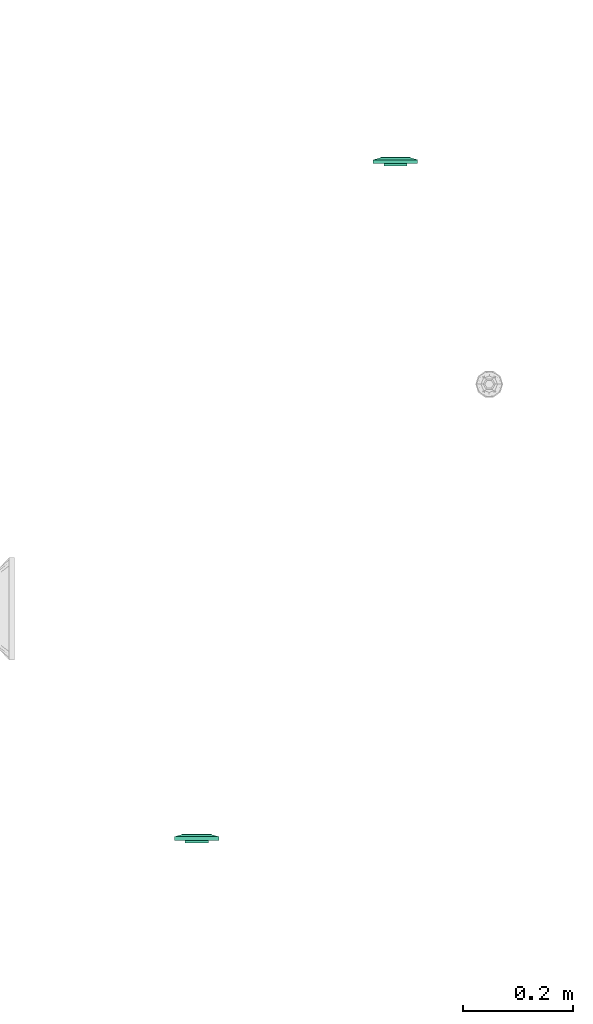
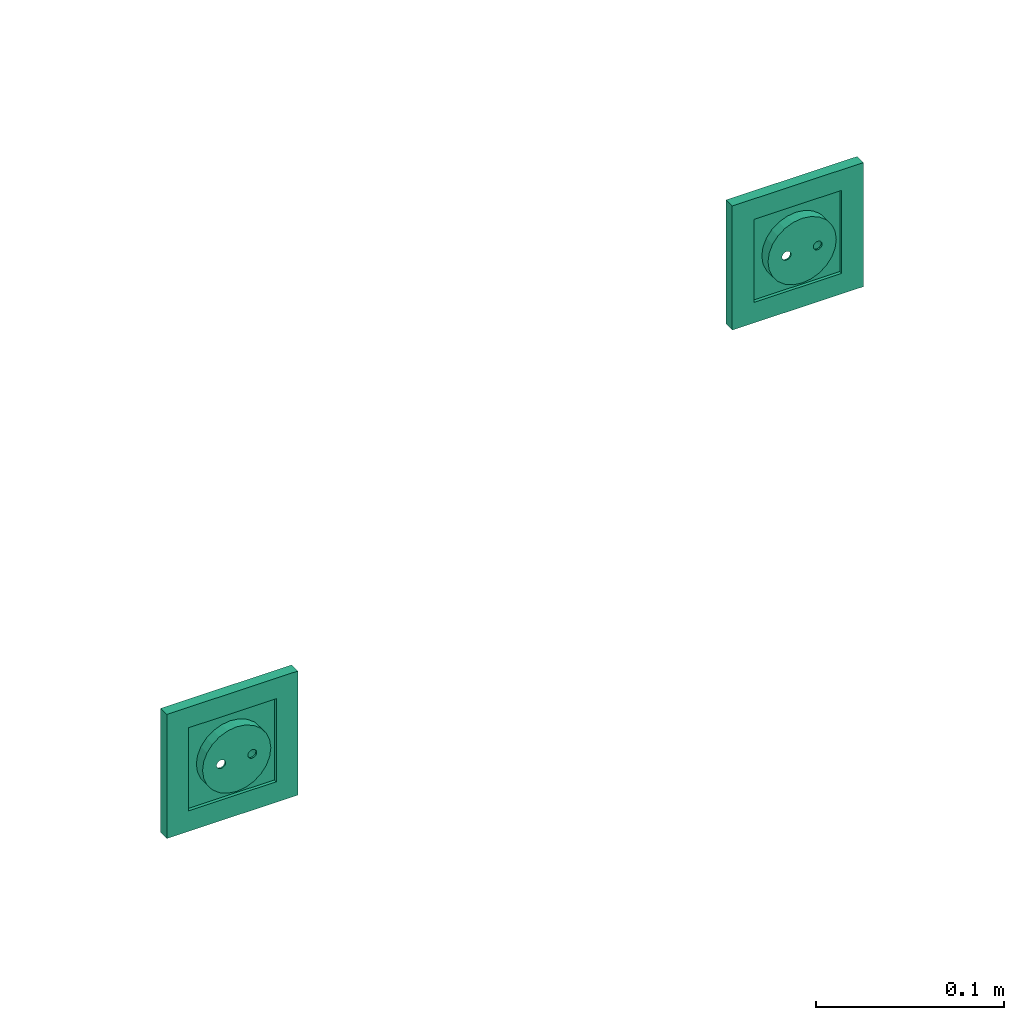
# One storey, part 82 of 166: 2 flow terminals.
"""IFC2X3 building model written with IfcOpenShell, lengths in metres."""

from ifc_helpers import new_model, entity, si_unit, converted_unit, derived_unit, direction, frame, origin, place, context, subcontext, project, spatial, face_set, surface_model, source, transform, mapped, type_object, type_shapes, element, save


model = new_model("IFC2X3")

# Units and contexts
model_context = context("Model", 3, precision=1e-05, world=origin(), true_north=direction((6.12303176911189e-17, 1.0)))
body_context = subcontext(model_context, "Body", "Model", "MODEL_VIEW")
ifc_project = project(units=[si_unit("LENGTHUNIT", "METRE"), si_unit("AREAUNIT", "SQUARE_METRE"), si_unit("VOLUMEUNIT", "CUBIC_METRE"), converted_unit("PLANEANGLEUNIT", "DEGREE", entity("IfcRatioMeasure", 0.0174532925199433), si_unit("PLANEANGLEUNIT", "RADIAN"), dimensions=[0, 0, 0, 0, 0, 0, 0]), si_unit("MASSUNIT", "GRAM", prefix="KILO"), derived_unit("MASSDENSITYUNIT", [(si_unit("MASSUNIT", "GRAM", prefix="KILO"), 1), (si_unit("LENGTHUNIT", "METRE"), -3)]), si_unit("TIMEUNIT", "SECOND"), si_unit("FREQUENCYUNIT", "HERTZ"), si_unit("THERMODYNAMICTEMPERATUREUNIT", "DEGREE_CELSIUS"), derived_unit("THERMALTRANSMITTANCEUNIT", [(si_unit("MASSUNIT", "GRAM", prefix="KILO"), 1), (si_unit("THERMODYNAMICTEMPERATUREUNIT", "KELVIN"), -1), (si_unit("TIMEUNIT", "SECOND"), -3)]), derived_unit("VOLUMETRICFLOWRATEUNIT", [(si_unit("LENGTHUNIT", "METRE"), 3), (si_unit("TIMEUNIT", "SECOND"), -1)]), si_unit("ELECTRICCURRENTUNIT", "AMPERE"), si_unit("ELECTRICVOLTAGEUNIT", "VOLT"), si_unit("POWERUNIT", "WATT"), si_unit("FORCEUNIT", "NEWTON"), si_unit("ILLUMINANCEUNIT", "LUX"), si_unit("LUMINOUSFLUXUNIT", "LUMEN"), si_unit("LUMINOUSINTENSITYUNIT", "CANDELA"), derived_unit("USERDEFINED", [(si_unit("MASSUNIT", "GRAM", prefix="KILO"), -1), (si_unit("LENGTHUNIT", "METRE"), -2), (si_unit("TIMEUNIT", "SECOND"), 3), (si_unit("LUMINOUSFLUXUNIT", "LUMEN"), 1)]), derived_unit("LINEARVELOCITYUNIT", [(si_unit("LENGTHUNIT", "METRE"), 1), (si_unit("TIMEUNIT", "SECOND"), -1)]), si_unit("PRESSUREUNIT", "PASCAL"), derived_unit("USERDEFINED", [(si_unit("LENGTHUNIT", "METRE"), -2), (si_unit("MASSUNIT", "GRAM", prefix="KILO"), 1), (si_unit("TIMEUNIT", "SECOND"), -2)])], contexts=[model_context])

# Site, building, storey
site_placement = place(None, origin())
site = spatial("IfcSite", under=ifc_project, at=site_placement, Name="Default", CompositionType="ELEMENT")
building_placement = place(site_placement, origin())
building = spatial("IfcBuilding", under=site, at=building_placement, CompositionType="ELEMENT")
storey_placement = place(building_placement, frame((0.0, 0.0, 4.27)))
storey = spatial("IfcBuildingStorey", under=building, at=storey_placement, Name="01", CompositionType="ELEMENT", Elevation=4.27)

# Flow terminals
light_fixture_type = type_object("IfcLightFixtureType", Name="Attente", PredefinedType="NOTDEFINED")
shared_shape = source(origin(), body_context, "Body", "SurfaceModel", [
    surface_model("IfcFaceBasedSurfaceModel", [(0.00225000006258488, 0.00949633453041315, 0.0127499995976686), (0.0, 0.00949633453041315, 0.0104999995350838), (0.0, 0.0101656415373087, 0.0115376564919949), (0.0, 0.0101656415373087, 0.0139623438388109), (0.0, 0.00984531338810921, 0.0144589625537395), (0.0, 0.0102778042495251, 0.0121178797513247), (0.0, 0.0102778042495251, 0.0133821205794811), (0.0, 0.010399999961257, 0.0127499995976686), (0.0, 0.00949633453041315, 0.0149999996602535), (-0.00225000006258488, 0.00949633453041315, 0.0127499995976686), (0.0, 0.00984531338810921, 0.0110410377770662), (0.0, 0.00949633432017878, 0.0127499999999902), (-0.0022499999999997, 0.0094963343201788, 0.0127499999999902), (-0.00217333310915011, 0.00949633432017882, 0.0121676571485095), (-0.0019485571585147, 0.00949633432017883, 0.0116249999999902), (-0.00159099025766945, 0.00949633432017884, 0.0111590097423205), (-0.00112499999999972, 0.00949633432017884, 0.0108014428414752), (-0.000582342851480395, 0.00949633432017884, 0.0105766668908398), (0.0, 0.00949633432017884, 0.0104999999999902), (0.000582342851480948, 0.00949633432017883, 0.0105766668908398), (0.00112500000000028, 0.00949633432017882, 0.0108014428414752), (0.00159099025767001, 0.00949633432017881, 0.0111590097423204), (0.00194855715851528, 0.00949633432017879, 0.0116249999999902), (0.0021733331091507, 0.00949633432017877, 0.0121676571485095), (0.0022500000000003, 0.00949633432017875, 0.0127499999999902), (0.00217333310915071, 0.00949633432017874, 0.0133323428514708), (0.0019485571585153, 0.00949633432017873, 0.0138749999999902), (0.00159099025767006, 0.00949633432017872, 0.0143409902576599), (0.00112500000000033, 0.00949633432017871, 0.0146985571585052), (0.000582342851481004, 0.00949633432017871, 0.0149233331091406), (0.0, 0.00949633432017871, 0.0149999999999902), (-0.000582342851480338, 0.00949633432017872, 0.0149233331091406), (-0.00112499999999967, 0.00949633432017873, 0.0146985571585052), (-0.00159099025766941, 0.00949633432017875, 0.0143409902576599), (-0.00194855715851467, 0.00949633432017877, 0.0138749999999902), (-0.00217333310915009, 0.00949633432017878, 0.0133323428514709), (-0.00224999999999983, -0.00360000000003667, 0.0127499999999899), (-0.00217333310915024, -0.00360000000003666, 0.0121676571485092), (-0.00194855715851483, -0.00360000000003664, 0.0116249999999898), (-0.00159099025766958, -0.00360000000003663, 0.0111590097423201), (-0.00112499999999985, -0.00360000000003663, 0.0108014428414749), (-0.000582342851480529, -0.00360000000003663, 0.0105766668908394), (0.0, -0.00360000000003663, 0.0104999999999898), (0.000582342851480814, -0.00360000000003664, 0.0105766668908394), (0.00112500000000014, -0.00360000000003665, 0.0108014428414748), (0.00159099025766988, -0.00360000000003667, 0.0111590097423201), (0.00194855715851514, -0.00360000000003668, 0.0116249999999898), (0.00217333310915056, -0.0036000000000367, 0.0121676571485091), (0.00225000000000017, -0.00360000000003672, 0.0127499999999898), (0.00217333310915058, -0.00360000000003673, 0.0133323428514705), (0.00194855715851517, -0.00360000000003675, 0.0138749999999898), (0.00159099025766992, -0.00360000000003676, 0.0143409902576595), (0.00112500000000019, -0.00360000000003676, 0.0146985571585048), (0.00058234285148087, -0.00360000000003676, 0.0149233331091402), (0.0, -0.00360000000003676, 0.0149999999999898), (-0.000582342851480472, -0.00360000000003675, 0.0149233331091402), (-0.0011249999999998, -0.00360000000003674, 0.0146985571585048), (-0.00159099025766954, -0.00360000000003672, 0.0143409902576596), (-0.0019485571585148, -0.00360000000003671, 0.0138749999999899), (-0.00217333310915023, -0.00360000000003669, 0.0133323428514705), (-0.0270000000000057, 0.0113999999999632, 0.0269999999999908), (0.0269999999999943, 0.0113999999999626, 0.0269999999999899), (0.0269999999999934, 0.0113999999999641, -0.0270000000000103), (-0.0270000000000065, 0.0113999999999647, -0.0270000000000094), (0.0199999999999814, 0.0113999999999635, 0.0), (0.0193185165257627, 0.0113999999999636, -0.00517638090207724), (0.0173205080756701, 0.0113999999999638, -0.0100000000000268), (0.0141421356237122, 0.0113999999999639, -0.0141421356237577), (0.00999999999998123, 0.011399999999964, -0.0173205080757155), (0.00517638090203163, 0.0113999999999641, -0.019318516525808), (0.0, 0.0113999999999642, -0.0200000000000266), (-0.00517638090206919, 0.0113999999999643, -0.0193185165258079), (-0.0100000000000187, 0.0113999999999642, -0.0173205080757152), (-0.0141421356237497, 0.0113999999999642, -0.0141421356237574), (-0.0173205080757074, 0.0113999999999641, -0.0100000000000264), (-0.0193185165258, 0.011399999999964, -0.0051763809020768), (-0.0200000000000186, 0.0113999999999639, 0.0), (-0.0193185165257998, 0.0113999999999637, 0.00517638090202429), (-0.0173205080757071, 0.0113999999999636, 0.00999999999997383), (-0.0141421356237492, 0.0113999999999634, 0.0141421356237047), (-0.0100000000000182, 0.0113999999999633, 0.0173205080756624), (-0.00517638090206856, 0.0113999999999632, 0.0193185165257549), (0.0, 0.0113999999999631, 0.0199999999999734), (0.00517638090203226, 0.0113999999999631, 0.0193185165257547), (0.0099999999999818, 0.0113999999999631, 0.017320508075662), (0.0141421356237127, 0.0113999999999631, 0.0141421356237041), (0.0173205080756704, 0.0113999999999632, 0.00999999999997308), (0.0193185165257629, 0.0113999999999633, 0.00517638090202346), (-0.0270000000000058, 0.00199999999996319, 0.0269999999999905), (-0.0270000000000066, 0.00199999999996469, -0.0270000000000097), (0.0269999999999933, 0.00199999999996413, -0.0270000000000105), (0.0269999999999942, 0.00199999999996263, 0.0269999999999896), (-0.0210000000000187, 0.00199999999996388, 0.0), (-0.0202844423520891, 0.00199999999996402, -0.00543519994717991), (-0.0181865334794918, 0.00199999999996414, -0.0105000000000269), (-0.0148492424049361, 0.00199999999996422, -0.0148492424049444), (-0.0105000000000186, 0.00199999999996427, -0.0181865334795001), (-0.00543519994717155, 0.00199999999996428, -0.0202844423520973), (0.0, 0.00199999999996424, -0.0210000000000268), (0.00543519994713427, 0.00199999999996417, -0.0202844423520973), (0.0104999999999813, 0.00199999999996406, -0.0181865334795), (0.0148492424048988, 0.00199999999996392, -0.0148492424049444), (0.0181865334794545, 0.00199999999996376, -0.0105000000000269), (0.0202844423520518, 0.0019999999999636, -0.00543519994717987), (0.0209999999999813, 0.00199999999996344, 0.0), (0.0202844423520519, 0.0019999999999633, 0.0054351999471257), (0.0181865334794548, 0.00199999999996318, 0.0104999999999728), (0.0148492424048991, 0.00199999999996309, 0.0148492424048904), (0.0104999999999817, 0.00199999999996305, 0.0181865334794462), (0.00543519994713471, 0.00199999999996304, 0.0202844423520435), (0.0, 0.00199999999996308, 0.0209999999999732), (-0.00543519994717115, 0.00199999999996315, 0.0202844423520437), (-0.0105000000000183, 0.00199999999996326, 0.0181865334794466), (-0.0148492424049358, 0.0019999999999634, 0.014849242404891), (-0.0181865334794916, 0.00199999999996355, 0.0104999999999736), (-0.020284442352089, 0.00199999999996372, 0.00543519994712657), (-0.0200000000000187, -0.00360000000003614, 0.0), (-0.0193185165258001, -0.003600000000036, -0.00517638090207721), (-0.0173205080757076, -0.00360000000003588, -0.0100000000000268), (-0.0141421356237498, -0.0036000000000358, -0.0141421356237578), (-0.0100000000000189, -0.00360000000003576, -0.0173205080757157), (-0.00517638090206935, -0.00360000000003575, -0.0193185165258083), (0.0, -0.00360000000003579, -0.020000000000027), (0.00517638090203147, -0.00360000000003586, -0.0193185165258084), (0.00999999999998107, -0.00360000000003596, -0.0173205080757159), (0.0141421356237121, -0.00360000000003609, -0.0141421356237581), (0.0173205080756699, -0.00360000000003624, -0.0100000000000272), (0.0193185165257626, -0.0036000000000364, -0.00517638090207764), (0.0199999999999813, -0.00360000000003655, 0.0), (0.0193185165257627, -0.00360000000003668, 0.00517638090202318), (0.0173205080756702, -0.0036000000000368, 0.00999999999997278), (0.0141421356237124, -0.00360000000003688, 0.0141421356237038), (0.00999999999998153, -0.00360000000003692, 0.0173205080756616), (0.00517638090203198, -0.00360000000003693, 0.0193185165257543), (0.0, -0.0036000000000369, 0.019999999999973), (-0.00517638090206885, -0.00360000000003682, 0.0193185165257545), (-0.0100000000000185, -0.00360000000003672, 0.0173205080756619), (-0.0141421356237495, -0.00360000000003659, 0.0141421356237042), (-0.0173205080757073, -0.00360000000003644, 0.00999999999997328), (-0.0193185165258, -0.00360000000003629, 0.00517638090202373), (0.0123499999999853, -0.00360000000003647, 0.0), (0.0122562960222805, -0.00360000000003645, -0.000711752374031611), (0.0119815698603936, -0.00360000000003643, -0.00137499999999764), (0.0115445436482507, -0.00360000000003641, -0.00194454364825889), (0.0109749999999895, -0.00360000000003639, -0.00238156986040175), (0.0103117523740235, -0.00360000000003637, -0.00265629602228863), (0.00959999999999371, -0.00360000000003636, -0.00274999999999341), (0.00888824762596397, -0.00360000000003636, -0.00265629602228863), (0.00822499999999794, -0.00360000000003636, -0.00238156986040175), (0.00765545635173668, -0.00360000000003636, -0.00194454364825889), (0.00721843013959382, -0.00360000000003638, -0.00137499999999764), (0.00694370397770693, -0.00360000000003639, -0.000711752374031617), (0.00685000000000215, -0.00360000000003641, 0.0), (0.00694370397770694, -0.00360000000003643, 0.000711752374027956), (0.00721843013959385, -0.00360000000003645, 0.00137499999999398), (0.00765545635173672, -0.00360000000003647, 0.00194454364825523), (0.00822499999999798, -0.00360000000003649, 0.00238156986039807), (0.00888824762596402, -0.00360000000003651, 0.00265629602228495), (0.00959999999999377, -0.00360000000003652, 0.0027499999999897), (0.0103117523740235, -0.00360000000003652, 0.00265629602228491), (0.0109749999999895, -0.00360000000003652, 0.00238156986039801), (0.0115445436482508, -0.00360000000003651, 0.00194454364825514), (0.0119815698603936, -0.0036000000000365, 0.00137499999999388), (0.0122562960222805, -0.00360000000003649, 0.000711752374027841), (-0.00685000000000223, -0.00360000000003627, 0.0), (-0.00694370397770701, -0.00360000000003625, -0.000711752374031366), (-0.0072184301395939, -0.00360000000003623, -0.00137499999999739), (-0.00765545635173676, -0.00360000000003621, -0.00194454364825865), (-0.00822499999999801, -0.00360000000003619, -0.0023815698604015), (-0.00888824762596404, -0.00360000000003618, -0.00265629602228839), (-0.00959999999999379, -0.00360000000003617, -0.00274999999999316), (-0.0103117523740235, -0.00360000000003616, -0.00265629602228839), (-0.0109749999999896, -0.00360000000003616, -0.00238156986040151), (-0.0115445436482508, -0.00360000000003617, -0.00194454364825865), (-0.0119815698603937, -0.00360000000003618, -0.0013749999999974), (-0.0122562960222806, -0.0036000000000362, -0.000711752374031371), (-0.0123499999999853, -0.00360000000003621, 0.0), (-0.0122562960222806, -0.00360000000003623, 0.000711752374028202), (-0.0119815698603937, -0.00360000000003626, 0.00137499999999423), (-0.0115445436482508, -0.00360000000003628, 0.00194454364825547), (-0.0109749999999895, -0.00360000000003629, 0.00238156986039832), (-0.0103117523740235, -0.00360000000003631, 0.00265629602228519), (-0.00959999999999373, -0.00360000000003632, 0.00274999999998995), (-0.00888824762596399, -0.00360000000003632, 0.00265629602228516), (-0.00822499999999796, -0.00360000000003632, 0.00238156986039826), (-0.00765545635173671, -0.00360000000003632, 0.00194454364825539), (-0.00721843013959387, -0.0036000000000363, 0.00137499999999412), (-0.00694370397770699, -0.00360000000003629, 0.000711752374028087), (-0.0210000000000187, -0.00460000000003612, 0.0), (-0.0202844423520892, -0.00460000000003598, -0.00543519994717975), (-0.018186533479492, -0.00460000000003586, -0.0105000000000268), (-0.0148492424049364, -0.00460000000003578, -0.0148492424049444), (-0.0105000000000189, -0.00460000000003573, -0.0181865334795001), (-0.00543519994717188, -0.00460000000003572, -0.0202844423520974), (0.0, -0.00460000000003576, -0.021000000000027), (0.00543519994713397, -0.00460000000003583, -0.0202844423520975), (0.0104999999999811, -0.00460000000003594, -0.0181865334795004), (0.0148492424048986, -0.00460000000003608, -0.0148492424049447), (0.0181865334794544, -0.00460000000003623, -0.0105000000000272), (0.0202844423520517, -0.0046000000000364, -0.0054351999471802), (0.0209999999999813, -0.00460000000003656, 0.0), (0.0202844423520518, -0.0046000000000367, 0.00543519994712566), (0.0181865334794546, -0.00460000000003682, 0.0104999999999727), (0.014849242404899, -0.00460000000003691, 0.0148492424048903), (0.0104999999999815, -0.00460000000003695, 0.0181865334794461), (0.0054351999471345, -0.00460000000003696, 0.0202844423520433), (0.0, -0.00460000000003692, 0.020999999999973), (-0.00543519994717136, -0.00460000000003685, 0.0202844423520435), (-0.0105000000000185, -0.00460000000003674, 0.0181865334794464), (-0.014849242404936, -0.0046000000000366, 0.0148492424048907), (-0.0181865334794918, -0.00460000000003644, 0.0104999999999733), (-0.0202844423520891, -0.00460000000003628, 0.00543519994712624), (0.00685000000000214, -0.00460000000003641, 0.0), (0.00694370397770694, -0.00460000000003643, 0.000711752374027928), (0.00721843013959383, -0.00460000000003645, 0.00137499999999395), (0.0076554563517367, -0.00460000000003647, 0.0019445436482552), (0.00822499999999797, -0.00460000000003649, 0.00238156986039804), (0.00888824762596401, -0.0046000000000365, 0.00265629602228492), (0.00959999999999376, -0.00460000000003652, 0.00274999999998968), (0.0103117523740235, -0.00460000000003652, 0.00265629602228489), (0.0109749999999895, -0.00460000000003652, 0.00238156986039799), (0.0115445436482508, -0.00460000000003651, 0.00194454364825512), (0.0119815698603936, -0.0046000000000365, 0.00137499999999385), (0.0122562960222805, -0.00460000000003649, 0.000711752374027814), (0.0123499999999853, -0.00460000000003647, 0.0), (0.0122562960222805, -0.00460000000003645, -0.00071175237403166), (0.0119815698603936, -0.00460000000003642, -0.00137499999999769), (0.0115445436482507, -0.0046000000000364, -0.00194454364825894), (0.0109749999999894, -0.00460000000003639, -0.00238156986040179), (0.0103117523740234, -0.00460000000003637, -0.00265629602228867), (0.00959999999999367, -0.00460000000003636, -0.00274999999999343), (0.00888824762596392, -0.00460000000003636, -0.00265629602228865), (0.00822499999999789, -0.00460000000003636, -0.00238156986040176), (0.00765545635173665, -0.00460000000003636, -0.00194454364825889), (0.00721843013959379, -0.00460000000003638, -0.00137499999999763), (0.00694370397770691, -0.00460000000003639, -0.0007117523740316), (-0.0123499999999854, -0.00460000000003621, 0.0), (-0.0122562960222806, -0.00460000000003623, 0.000711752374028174), (-0.0119815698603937, -0.00460000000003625, 0.0013749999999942), (-0.0115445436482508, -0.00460000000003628, 0.00194454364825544), (-0.0109749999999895, -0.00460000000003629, 0.00238156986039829), (-0.0103117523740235, -0.00460000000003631, 0.00265629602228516), (-0.00959999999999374, -0.00460000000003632, 0.00274999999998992), (-0.008888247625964, -0.00460000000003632, 0.00265629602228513), (-0.00822499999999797, -0.00460000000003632, 0.00238156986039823), (-0.00765545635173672, -0.00460000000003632, 0.00194454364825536), (-0.00721843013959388, -0.0046000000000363, 0.0013749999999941), (-0.006943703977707, -0.00460000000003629, 0.000711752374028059), (-0.00685000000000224, -0.00460000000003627, 0.0), (-0.00694370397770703, -0.00460000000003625, -0.000711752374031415), (-0.00721843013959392, -0.00460000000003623, -0.00137499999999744), (-0.00765545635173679, -0.00460000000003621, -0.00194454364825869), (-0.00822499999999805, -0.00460000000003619, -0.00238156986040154), (-0.00888824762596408, -0.00460000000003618, -0.00265629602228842), (-0.00959999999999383, -0.00460000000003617, -0.00274999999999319), (-0.0103117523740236, -0.00460000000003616, -0.00265629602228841), (-0.0109749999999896, -0.00460000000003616, -0.00238156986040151), (-0.0115445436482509, -0.00460000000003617, -0.00194454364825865), (-0.0119815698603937, -0.00460000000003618, -0.00137499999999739), (-0.0122562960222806, -0.00460000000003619, -0.000711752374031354), (-0.0403499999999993, 0.00659999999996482, 0.0403499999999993), (-0.0403500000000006, 0.00659999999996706, -0.0403500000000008), (0.0403499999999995, 0.00659999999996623, -0.0403500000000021), (0.0403500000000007, 0.00659999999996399, 0.040349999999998), (-0.0269999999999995, 0.00659999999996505, 0.026999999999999), (0.0270000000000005, 0.0065999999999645, 0.0269999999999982), (0.0269999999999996, 0.006599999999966, -0.0270000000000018), (-0.0270000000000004, 0.00659999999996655, -0.027000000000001), (-0.0269999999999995, 0.0103999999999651, 0.0269999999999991), (0.0270000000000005, 0.0103999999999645, 0.0269999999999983), (0.0269999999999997, 0.010399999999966, -0.0270000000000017), (-0.0270000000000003, 0.0103999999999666, -0.0270000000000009), (-0.0403499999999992, 0.00659999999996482, 0.0403499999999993), (-0.0403500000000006, 0.00659999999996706, -0.0403500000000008), (0.0403499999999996, 0.00659999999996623, -0.0403500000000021), (0.0403500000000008, 0.00659999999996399, 0.040349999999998), (0.0270000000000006, 0.0065999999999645, 0.0269999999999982), (0.0269999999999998, 0.006599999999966, -0.0270000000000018), (-0.0270000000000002, 0.00659999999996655, -0.027000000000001), (-0.0269999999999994, 0.00659999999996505, 0.026999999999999), (-0.0403499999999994, 0.0, 0.0403499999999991), (-0.0403500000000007, 0.0, -0.040350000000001), (0.0403499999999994, 0.0, -0.0403500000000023), (0.0403500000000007, 0.0, 0.0403499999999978), (-0.0269999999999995, 0.0, 0.0269999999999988), (0.0270000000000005, 0.0, 0.026999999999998), (0.0269999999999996, 0.0, -0.027000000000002), (-0.0270000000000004, 0.0, -0.0270000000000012)], [face_set([[[0, 1, 2]], [[3, 4, 2, 5]], [[6, 3, 5, 7]], [[2, 4, 0]], [[4, 8, 0]], [[3, 9, 8]], [[1, 9, 10]], [[2, 3, 6, 7]], [[3, 10, 9]], [[2, 10, 3]], [[11, 1, 0, 8]], [[11, 8, 9, 1]]]), face_set([[[12, 13, 14, 15, 16, 17, 18, 19, 20, 21, 22, 23, 24, 25, 26, 27, 28, 29, 30, 31, 32, 33, 34, 35]], [[36, 37, 38, 39, 40, 41, 42, 43, 44, 45, 46, 47, 48, 49, 50, 51, 52, 53, 54, 55, 56, 57, 58, 59]], [[48, 47, 23, 24]], [[47, 46, 22, 23]], [[45, 44, 20, 21]], [[46, 45, 21, 22]], [[44, 43, 19, 20]], [[18, 19, 43, 42]], [[42, 41, 17, 18]], [[41, 40, 16, 17]], [[39, 38, 14, 15]], [[40, 39, 15, 16]], [[38, 37, 13, 14]], [[12, 13, 37, 36]], [[36, 59, 35, 12]], [[59, 58, 34, 35]], [[57, 56, 32, 33]], [[58, 57, 33, 34]], [[56, 55, 31, 32]], [[30, 31, 55, 54]], [[54, 53, 29, 30]], [[53, 52, 28, 29]], [[51, 50, 26, 27]], [[52, 51, 27, 28]], [[50, 49, 25, 26]], [[24, 25, 49, 48]]]), face_set([[[60, 61, 62, 63], [64, 65, 66, 67, 68, 69, 70, 71, 72, 73, 74, 75, 76, 77, 78, 79, 80, 81, 82, 83, 84, 85, 86, 87]], [[88, 89, 90, 91], [92, 93, 94, 95, 96, 97, 98, 99, 100, 101, 102, 103, 104, 105, 106, 107, 108, 109, 110, 111, 112, 113, 114, 115]], [[61, 60, 88, 91]], [[62, 61, 91, 90]], [[63, 62, 90, 89]], [[60, 63, 89, 88]], [[116, 117, 118, 119, 120, 121, 122, 123, 124, 125, 126, 127, 128, 129, 130, 131, 132, 133, 134, 135, 136, 137, 138, 139], [140, 141, 142, 143, 144, 145, 146, 147, 148, 149, 150, 151, 152, 153, 154, 155, 156, 157, 158, 159, 160, 161, 162, 163], [164, 165, 166, 167, 168, 169, 170, 171, 172, 173, 174, 175, 176, 177, 178, 179, 180, 181, 182, 183, 184, 185, 186, 187]], [[64, 128, 127, 65]], [[65, 127, 126, 66]], [[67, 125, 124, 68]], [[66, 126, 125, 67]], [[68, 124, 123, 69]], [[122, 70, 69, 123]], [[70, 122, 121, 71]], [[71, 121, 120, 72]], [[73, 119, 118, 74]], [[72, 120, 119, 73]], [[74, 118, 117, 75]], [[116, 76, 75, 117]], [[76, 116, 139, 77]], [[77, 139, 138, 78]], [[79, 137, 136, 80]], [[78, 138, 137, 79]], [[80, 136, 135, 81]], [[134, 82, 81, 135]], [[82, 134, 133, 83]], [[83, 133, 132, 84]], [[84, 132, 131, 85]], [[85, 131, 130, 86]], [[130, 129, 87, 86]], [[64, 87, 129, 128]], [[188, 189, 190, 191, 192, 193, 194, 195, 196, 197, 198, 199, 200, 201, 202, 203, 204, 205, 206, 207, 208, 209, 210, 211], [212, 213, 214, 215, 216, 217, 218, 219, 220, 221, 222, 223, 224, 225, 226, 227, 228, 229, 230, 231, 232, 233, 234, 235], [236, 237, 238, 239, 240, 241, 242, 243, 244, 245, 246, 247, 248, 249, 250, 251, 252, 253, 254, 255, 256, 257, 258, 259]], [[200, 199, 103, 104]], [[199, 198, 102, 103]], [[197, 196, 100, 101]], [[198, 197, 101, 102]], [[196, 195, 99, 100]], [[98, 99, 195, 194]], [[194, 193, 97, 98]], [[193, 192, 96, 97]], [[191, 190, 94, 95]], [[192, 191, 95, 96]], [[190, 189, 93, 94]], [[92, 93, 189, 188]], [[188, 211, 115, 92]], [[211, 210, 114, 115]], [[209, 208, 112, 113]], [[210, 209, 113, 114]], [[208, 207, 111, 112]], [[110, 111, 207, 206]], [[206, 205, 109, 110]], [[205, 204, 108, 109]], [[203, 202, 106, 107]], [[204, 203, 107, 108]], [[202, 201, 105, 106]], [[104, 105, 201, 200]], [[141, 225, 226, 142]], [[140, 224, 225, 141]], [[144, 228, 229, 145]], [[143, 227, 228, 144]], [[142, 226, 227, 143]], [[230, 146, 145, 229]], [[149, 233, 232, 148]], [[148, 232, 231, 147]], [[152, 212, 235, 151]], [[151, 235, 234, 150]], [[150, 234, 233, 149]], [[146, 230, 231, 147]], [[154, 214, 213, 153]], [[153, 213, 212, 152]], [[157, 217, 216, 156]], [[156, 216, 215, 155]], [[155, 215, 214, 154]], [[218, 158, 157, 217]], [[160, 220, 221, 161]], [[159, 219, 220, 160]], [[163, 223, 224, 140]], [[162, 222, 223, 163]], [[161, 221, 222, 162]], [[158, 218, 219, 159]], [[166, 250, 249, 165]], [[165, 249, 248, 164]], [[169, 253, 252, 168]], [[168, 252, 251, 167]], [[167, 251, 250, 166]], [[254, 170, 169, 253]], [[172, 256, 257, 173]], [[171, 255, 256, 172]], [[175, 259, 236, 176]], [[174, 258, 259, 175]], [[173, 257, 258, 174]], [[170, 254, 255, 171]], [[177, 237, 238, 178]], [[176, 236, 237, 177]], [[180, 240, 241, 181]], [[179, 239, 240, 180]], [[178, 238, 239, 179]], [[242, 182, 181, 241]], [[185, 245, 244, 184]], [[184, 244, 243, 183]], [[164, 248, 247, 187]], [[187, 247, 246, 186]], [[186, 246, 245, 185]], [[182, 242, 243, 183]]]), face_set([[[260, 261, 262, 263], [264, 265, 266, 267]], [[260, 268, 269, 263]], [[263, 269, 270, 262]], [[262, 270, 271, 261]], [[261, 271, 268, 260]], [[264, 265, 269, 268]], [[265, 266, 270, 269]], [[266, 267, 271, 270]], [[268, 271, 267, 264]]]), face_set([[[272, 273, 274, 275], [276, 277, 278, 279]], [[280, 281, 282, 283], [284, 285, 286, 287]], [[275, 272, 280, 283]], [[274, 275, 283, 282]], [[273, 274, 282, 281]], [[272, 273, 281, 280]], [[284, 285, 276, 279]], [[285, 286, 277, 276]], [[286, 287, 278, 277]], [[279, 278, 287, 284]]])]),
])
type_shapes(light_fixture_type, [shared_shape])
for number, where, name in (
    (1, (45.4897436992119, -188.584488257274, 1.2), "INT_Attente électrique:Attente"),
    (2, (45.849743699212, -187.358605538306, 0.0), "INT_Attente électrique:Attente"),
):
    element("IfcFlowTerminal", number, at=place(storey_placement, frame(where)), inside=storey, type_object=light_fixture_type, Name=name, ObjectType="INT_Attente électrique:Attente", context=body_context, shape_type="MappedRepresentation", body=[
        mapped(shared_shape, transform((0.0, 0.0, 0.0), scale=1.0)),
    ])

save(model, "model.ifc")
